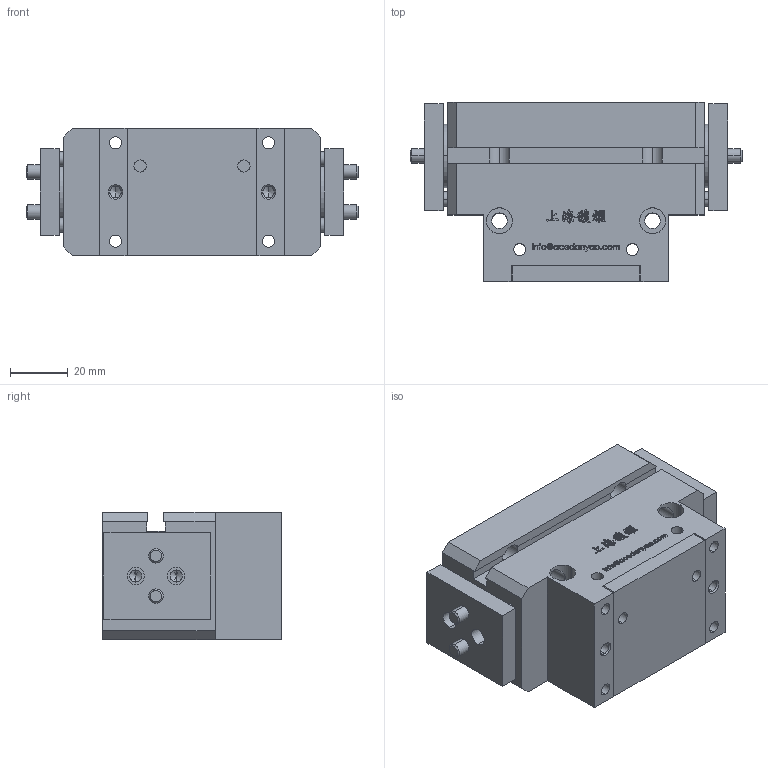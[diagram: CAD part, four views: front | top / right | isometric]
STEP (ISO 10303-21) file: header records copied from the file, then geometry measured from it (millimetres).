
FILE_DESCRIPTION (( 'STEP AP203' ), '1' );
FILE_NAME ('SRO-80-原始檔-組合-W106.04.20.STEP', '2017-04-20T08:18:28', ( 'DanyaoCAD' ), ( '' ), 'SwSTEP 2.0', 'SolidWorks 2016', '' );
FILE_SCHEMA (( 'CONFIG_CONTROL_DESIGN' ));
Length unit declared in the file: millimetre
Products named in the file (4): Griffa; Corpo; Fondello; SRO-80-原始檔-組合-W106.04.20
Assembly tree (4 placements, depth 2):
  SRO-80-原始檔-組合-W106.04.20
    Griffa  x2
    Corpo
    Fondello
Bounding box: 115 x 62 x 44 mm (x, y, z)
Volume: 210251.4 mm3; surface area: 57019.2 mm2
Topology: 4 solids, 4 shells, 1000 faces, 2770 edges, 1828 vertices
Faces by surface type: bspline 640, plane 234, cylinder 94, cone 32
Entity records: 47968 total; most frequent: CARTESIAN_POINT 27134, ORIENTED_EDGE 5352, EDGE_CURVE 2676, DIRECTION 2184, VERTEX_POINT 1778, B_SPLINE_CURVE_WITH_KNOTS 1312, LINE 1200, VECTOR 1200
